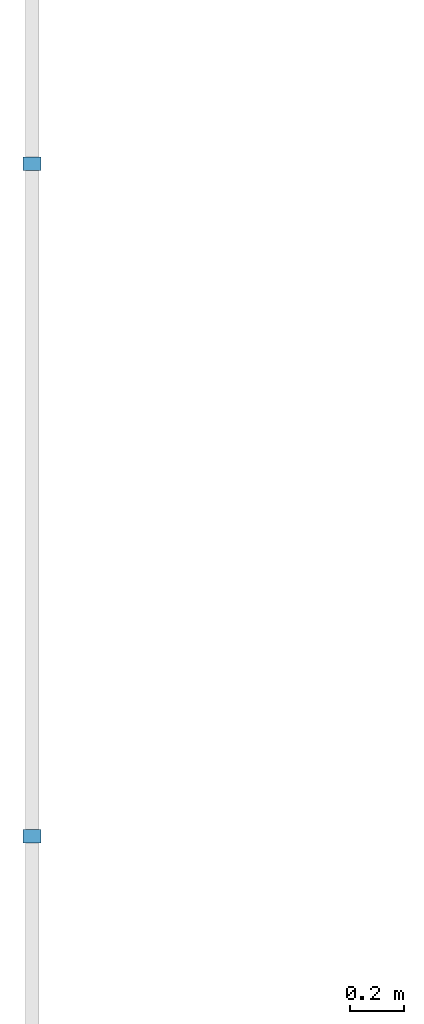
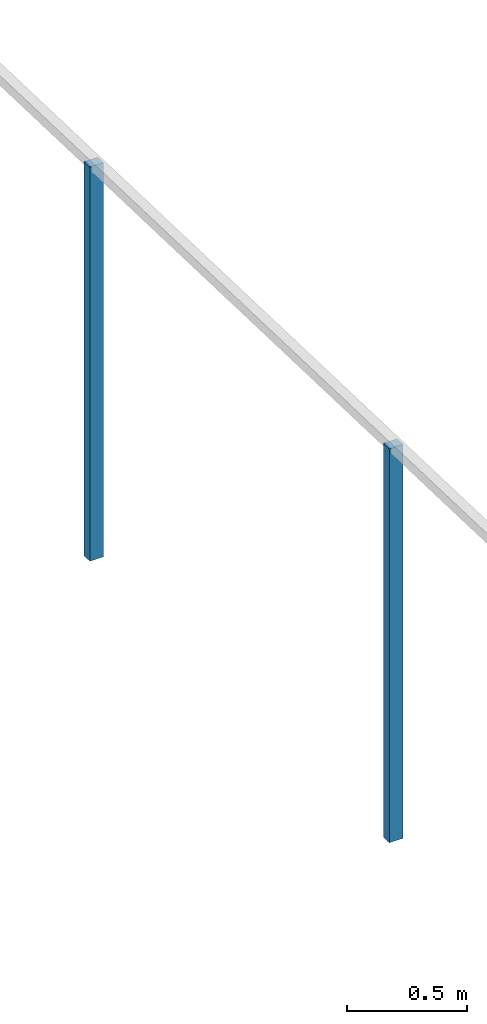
# One storey, part 52 of 91: 2 building element parts, 1 element without a shape of its own.
"""IFC2X3 building model written with IfcOpenShell, lengths in metres."""

from ifc_helpers import new_model, entity, si_unit, converted_unit, derived_unit, money_unit, direction, frame, origin_with_axes, place, context, subcontext, project, spatial, faceted_brep, material, type_object, element, aggregate, save


model = new_model("IFC2X3")

# Units and contexts
model_context = context("Model", 3, precision=1e-05, world=origin_with_axes(), true_north=direction((0.0, 1.0)))
body_context = subcontext(model_context, "Body", "Model", "MODEL_VIEW")
ifc_project = project(units=[si_unit("LENGTHUNIT", "METRE"), si_unit("AREAUNIT", "SQUARE_METRE"), si_unit("VOLUMEUNIT", "CUBIC_METRE"), converted_unit("PLANEANGLEUNIT", "DEGREE", entity("IfcPlaneAngleMeasure", 0.0174532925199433), si_unit("PLANEANGLEUNIT", "RADIAN"), dimensions=[0, 0, 0, 0, 0, 0, 0]), money_unit("EUR"), converted_unit("TIMEUNIT", "Year", entity("IfcTimeMeasure", 31557600.0), si_unit("TIMEUNIT", "SECOND"), dimensions=[0, 0, 1, 0, 0, 0, 0]), si_unit("MASSUNIT", "GRAM", prefix="KILO"), si_unit("THERMODYNAMICTEMPERATUREUNIT", "DEGREE_CELSIUS"), si_unit("LUMINOUSINTENSITYUNIT", "LUMEN"), si_unit("ENERGYUNIT", "JOULE", prefix="MEGA"), derived_unit("THERMALCONDUCTANCEUNIT", [(si_unit("POWERUNIT", "WATT"), 1), (si_unit("LENGTHUNIT", "METRE"), -1), (si_unit("THERMODYNAMICTEMPERATUREUNIT", "KELVIN"), -1)]), derived_unit("SPECIFICHEATCAPACITYUNIT", [(si_unit("ENERGYUNIT", "JOULE"), 1), (si_unit("MASSUNIT", "GRAM", prefix="KILO"), -1), (si_unit("THERMODYNAMICTEMPERATUREUNIT", "KELVIN"), -1)]), derived_unit("MASSDENSITYUNIT", [(si_unit("MASSUNIT", "GRAM", prefix="KILO"), 1), (si_unit("VOLUMEUNIT", "CUBIC_METRE"), -1)])], contexts=[model_context])

# Site, building, storey
site_placement = place(None, origin_with_axes())
site = spatial("IfcSite", under=ifc_project, at=site_placement, Name="Site", CompositionType="ELEMENT")
building_placement = place(site_placement, origin_with_axes())
building = spatial("IfcBuilding", under=site, at=building_placement, Name="Bâtiment", CompositionType="ELEMENT")
storey_placement = place(building_placement, origin_with_axes())
storey = spatial("IfcBuildingStorey", under=building, at=storey_placement, Name="RDC", CompositionType="ELEMENT", Elevation=0.0)

# Proxy, building element parts
building_element_proxy_type = type_object("IfcBuildingElementProxyType", Name="Type de garde-corps", PredefinedType="NOTDEFINED")
proxy_placement = place(storey_placement, frame((79.63337255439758, 3.614023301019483, -2.37161404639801), z_axis=(0.0, 0.0, 1.0), x_axis=(1.0, 0.0, 0.0)))
proxy = element("IfcBuildingElementProxy", 1, at=proxy_placement, inside=storey, type_object=building_element_proxy_type, Name="RAMPE-004")
ifc_material = material(Name="Acier Galva")
building_element_part_1_placement = place(proxy_placement, origin_with_axes())
building_element_part_1 = element("IfcBuildingElementPart", 2, at=building_element_part_1_placement, material=ifc_material, Name="Acier Galva", context=body_context, shape_type="Brep", body=[
    faceted_brep([(-79.72716692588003, -21.55785166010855, 4.180949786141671), (-79.66116692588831, -21.55785061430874, 4.180949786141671), (-79.66116692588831, -21.55785061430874, 6.180949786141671), (-79.72716692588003, -21.55785166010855, 6.180949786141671), (-79.7271677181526, -21.50785166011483, 4.179328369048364), (-79.6611677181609, -21.50785061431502, 4.179328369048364), (-79.6611677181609, -21.50785061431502, 6.179328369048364), (-79.7271677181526, -21.50785166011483, 6.179328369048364)], [[[0, 1, 2, 3]], [[0, 4, 5, 1]], [[1, 5, 6, 2]], [[3, 2, 6, 7]], [[4, 0, 3, 7]], [[5, 4, 7, 6]]]),
])
building_element_part_2_placement = place(proxy_placement, origin_with_axes())
building_element_part_2 = element("IfcBuildingElementPart", 3, at=building_element_part_2_placement, material=ifc_material, Name="Acier Galva", context=body_context, shape_type="Brep", body=[
    faceted_brep([(-79.727127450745, -24.04911134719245, 4.261737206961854), (-79.66112745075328, -24.04911030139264, 4.261737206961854), (-79.66112745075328, -24.04911030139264, 6.261737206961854), (-79.727127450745, -24.04911134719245, 6.261737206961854), (-79.72712824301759, -23.99911134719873, 4.260115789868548), (-79.66112824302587, -23.99911030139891, 4.260115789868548), (-79.66112824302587, -23.99911030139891, 6.260115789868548), (-79.72712824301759, -23.99911134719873, 6.260115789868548)], [[[0, 1, 2, 3]], [[0, 4, 5, 1]], [[1, 5, 6, 2]], [[3, 2, 6, 7]], [[4, 0, 3, 7]], [[5, 4, 7, 6]]]),
])
aggregate(proxy, [building_element_part_1, building_element_part_2])

save(model, "model.ifc")
